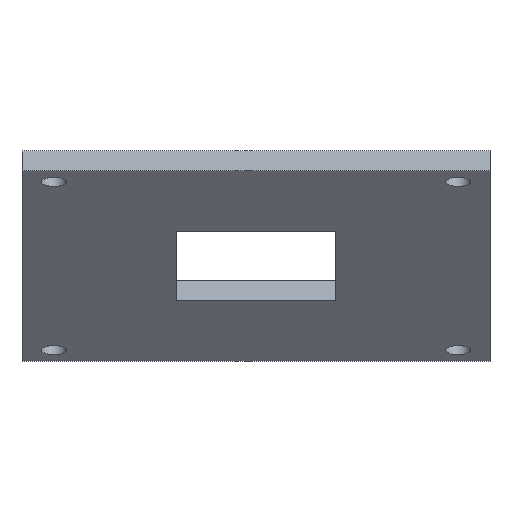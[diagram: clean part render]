
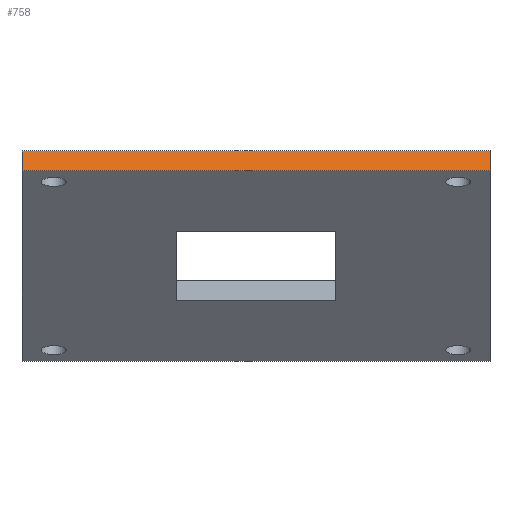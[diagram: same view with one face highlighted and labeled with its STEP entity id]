
A CAD part, top view. The second image highlights one B-rep face of the part: STEP entity #758.
In plain terms, the highlighted planar face has unit normal (0, 0.342, 0.94).
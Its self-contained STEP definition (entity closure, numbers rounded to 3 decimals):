
#44 = PLANE('',#45);
#45 = AXIS2_PLACEMENT_3D('',#46,#47,#48);
#46 = CARTESIAN_POINT('',(17.,26.508,78.679));
#47 = DIRECTION('',(-1.,-0.,0.));
#48 = DIRECTION('',(0.,-0.342,-0.94));
#72 = PLANE('',#73);
#73 = AXIS2_PLACEMENT_3D('',#74,#75,#76);
#74 = CARTESIAN_POINT('',(39.,19.495,53.562));
#75 = DIRECTION('',(-0.,-0.94,0.342));
#76 = DIRECTION('',(0.,-0.342,-0.94));
#100 = PLANE('',#101);
#101 = AXIS2_PLACEMENT_3D('',#102,#103,#104);
#102 = CARTESIAN_POINT('',(61.,8.723,29.815));
#103 = DIRECTION('',(1.,0.,-0.));
#104 = DIRECTION('',(0.,0.342,0.94));
#126 = PLANE('',#127);
#127 = AXIS2_PLACEMENT_3D('',#128,#129,#130);
#128 = CARTESIAN_POINT('',(39.,17.616,54.247));
#129 = DIRECTION('',(-0.,-0.94,0.342));
#130 = DIRECTION('',(0.,-0.342,-0.94));
#141 = EDGE_CURVE('',#142,#144,#146,.T.);
#142 = VERTEX_POINT('',#143);
#143 = CARTESIAN_POINT('',(17.,26.508,78.679));
#144 = VERTEX_POINT('',#145);
#145 = CARTESIAN_POINT('',(17.,28.388,77.994));
#146 = SURFACE_CURVE('',#147,(#151,#158),.PCURVE_S1.);
#147 = LINE('',#148,#149);
#148 = CARTESIAN_POINT('',(17.,26.508,78.679));
#149 = VECTOR('',#150,1.);
#150 = DIRECTION('',(-0.,0.94,-0.342));
#151 = PCURVE('',#44,#152);
#152 = DEFINITIONAL_REPRESENTATION('',(#153),#157);
#153 = LINE('',#154,#155);
#154 = CARTESIAN_POINT('',(0.,0.));
#155 = VECTOR('',#156,1.);
#156 = DIRECTION('',(0.,-1.));
#157 = ( GEOMETRIC_REPRESENTATION_CONTEXT(2) 
PARAMETRIC_REPRESENTATION_CONTEXT() REPRESENTATION_CONTEXT('2D SPACE',''
  ) );
#158 = PCURVE('',#159,#164);
#159 = PLANE('',#160);
#160 = AXIS2_PLACEMENT_3D('',#161,#162,#163);
#161 = CARTESIAN_POINT('',(61.,26.508,78.679));
#162 = DIRECTION('',(0.,0.342,0.94));
#163 = DIRECTION('',(-1.,0.,0.));
#164 = DEFINITIONAL_REPRESENTATION('',(#165),#169);
#165 = LINE('',#166,#167);
#166 = CARTESIAN_POINT('',(44.,0.));
#167 = VECTOR('',#168,1.);
#168 = DIRECTION('',(0.,-1.));
#169 = ( GEOMETRIC_REPRESENTATION_CONTEXT(2) 
PARAMETRIC_REPRESENTATION_CONTEXT() REPRESENTATION_CONTEXT('2D SPACE',''
  ) );
#219 = VERTEX_POINT('',#220);
#220 = CARTESIAN_POINT('',(61.,28.388,77.994));
#241 = EDGE_CURVE('',#242,#219,#244,.T.);
#242 = VERTEX_POINT('',#243);
#243 = CARTESIAN_POINT('',(61.,26.508,78.679));
#244 = SURFACE_CURVE('',#245,(#249,#256),.PCURVE_S1.);
#245 = LINE('',#246,#247);
#246 = CARTESIAN_POINT('',(61.,26.508,78.679));
#247 = VECTOR('',#248,1.);
#248 = DIRECTION('',(-0.,0.94,-0.342));
#249 = PCURVE('',#100,#250);
#250 = DEFINITIONAL_REPRESENTATION('',(#251),#255);
#251 = LINE('',#252,#253);
#252 = CARTESIAN_POINT('',(52.,0.));
#253 = VECTOR('',#254,1.);
#254 = DIRECTION('',(0.,-1.));
#255 = ( GEOMETRIC_REPRESENTATION_CONTEXT(2) 
PARAMETRIC_REPRESENTATION_CONTEXT() REPRESENTATION_CONTEXT('2D SPACE',''
  ) );
#256 = PCURVE('',#159,#257);
#257 = DEFINITIONAL_REPRESENTATION('',(#258),#262);
#258 = LINE('',#259,#260);
#259 = CARTESIAN_POINT('',(0.,0.));
#260 = VECTOR('',#261,1.);
#261 = DIRECTION('',(0.,-1.));
#262 = ( GEOMETRIC_REPRESENTATION_CONTEXT(2) 
PARAMETRIC_REPRESENTATION_CONTEXT() REPRESENTATION_CONTEXT('2D SPACE',''
  ) );
#290 = EDGE_CURVE('',#242,#142,#291,.T.);
#291 = SURFACE_CURVE('',#292,(#296,#303),.PCURVE_S1.);
#292 = LINE('',#293,#294);
#293 = CARTESIAN_POINT('',(61.,26.508,78.679));
#294 = VECTOR('',#295,1.);
#295 = DIRECTION('',(-1.,0.,0.));
#296 = PCURVE('',#126,#297);
#297 = DEFINITIONAL_REPRESENTATION('',(#298),#302);
#298 = LINE('',#299,#300);
#299 = CARTESIAN_POINT('',(-26.,22.));
#300 = VECTOR('',#301,1.);
#301 = DIRECTION('',(-0.,-1.));
#302 = ( GEOMETRIC_REPRESENTATION_CONTEXT(2) 
PARAMETRIC_REPRESENTATION_CONTEXT() REPRESENTATION_CONTEXT('2D SPACE',''
  ) );
#303 = PCURVE('',#159,#304);
#304 = DEFINITIONAL_REPRESENTATION('',(#305),#309);
#305 = LINE('',#306,#307);
#306 = CARTESIAN_POINT('',(0.,0.));
#307 = VECTOR('',#308,1.);
#308 = DIRECTION('',(1.,0.));
#309 = ( GEOMETRIC_REPRESENTATION_CONTEXT(2) 
PARAMETRIC_REPRESENTATION_CONTEXT() REPRESENTATION_CONTEXT('2D SPACE',''
  ) );
#547 = EDGE_CURVE('',#219,#144,#548,.T.);
#548 = SURFACE_CURVE('',#549,(#553,#560),.PCURVE_S1.);
#549 = LINE('',#550,#551);
#550 = CARTESIAN_POINT('',(61.,28.388,77.994));
#551 = VECTOR('',#552,1.);
#552 = DIRECTION('',(-1.,0.,0.));
#553 = PCURVE('',#72,#554);
#554 = DEFINITIONAL_REPRESENTATION('',(#555),#559);
#555 = LINE('',#556,#557);
#556 = CARTESIAN_POINT('',(-26.,22.));
#557 = VECTOR('',#558,1.);
#558 = DIRECTION('',(-0.,-1.));
#559 = ( GEOMETRIC_REPRESENTATION_CONTEXT(2) 
PARAMETRIC_REPRESENTATION_CONTEXT() REPRESENTATION_CONTEXT('2D SPACE',''
  ) );
#560 = PCURVE('',#159,#561);
#561 = DEFINITIONAL_REPRESENTATION('',(#562),#566);
#562 = LINE('',#563,#564);
#563 = CARTESIAN_POINT('',(0.,-2.));
#564 = VECTOR('',#565,1.);
#565 = DIRECTION('',(1.,0.));
#566 = ( GEOMETRIC_REPRESENTATION_CONTEXT(2) 
PARAMETRIC_REPRESENTATION_CONTEXT() REPRESENTATION_CONTEXT('2D SPACE',''
  ) );
#758 = ADVANCED_FACE('',(#759),#159,.T.);
#759 = FACE_BOUND('',#760,.T.);
#760 = EDGE_LOOP('',(#761,#762,#763,#764));
#761 = ORIENTED_EDGE('',*,*,#241,.T.);
#762 = ORIENTED_EDGE('',*,*,#547,.T.);
#763 = ORIENTED_EDGE('',*,*,#141,.F.);
#764 = ORIENTED_EDGE('',*,*,#290,.F.);
